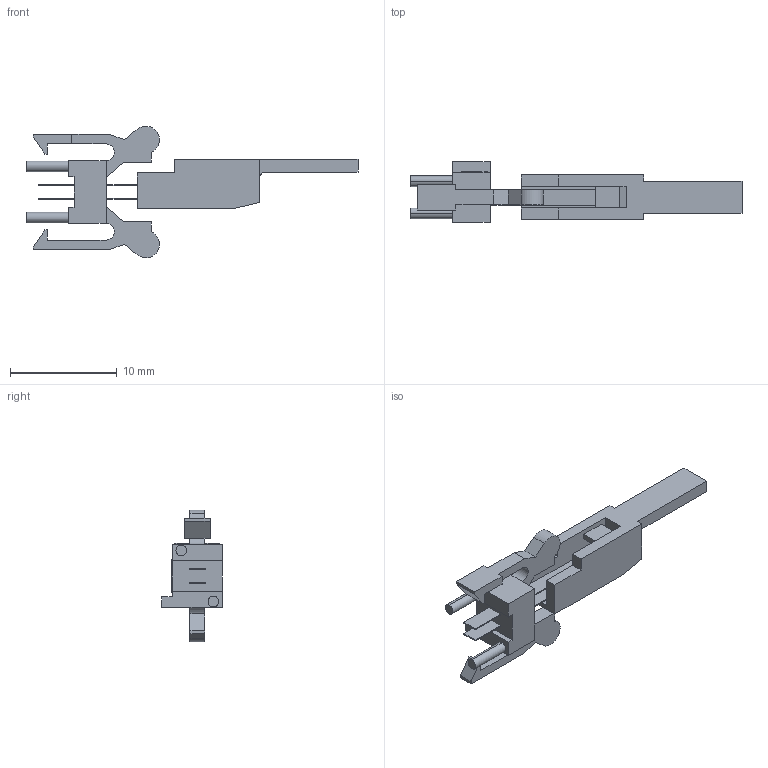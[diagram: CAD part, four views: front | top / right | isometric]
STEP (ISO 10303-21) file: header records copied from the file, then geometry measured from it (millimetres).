
FILE_DESCRIPTION (( 'STEP AP203' ), '1' );
FILE_NAME ('XB-LF-1731.STEP', '2024-03-09T14:44:15', ( '' ), ( '' ), 'SwSTEP 2.0', 'SolidWorks 2022', '' );
FILE_SCHEMA (( 'CONFIG_CONTROL_DESIGN' ));
Length unit declared in the file: millimetre
Products named in the file (1): XB-LF-1731
Bounding box: 31.1 x 5.7 x 12.33 mm (x, y, z)
Volume: 328.3 mm3; surface area: 840.9 mm2
Topology: 6 solids, 6 shells, 347 faces, 926 edges, 616 vertices
Faces by surface type: plane 247, bspline 82, cylinder 18
Entity records: 15431 total; most frequent: CARTESIAN_POINT 7220, ORIENTED_EDGE 1852, DIRECTION 1330, EDGE_CURVE 926, VECTOR 726, LINE 726, VERTEX_POINT 616, EDGE_LOOP 374
